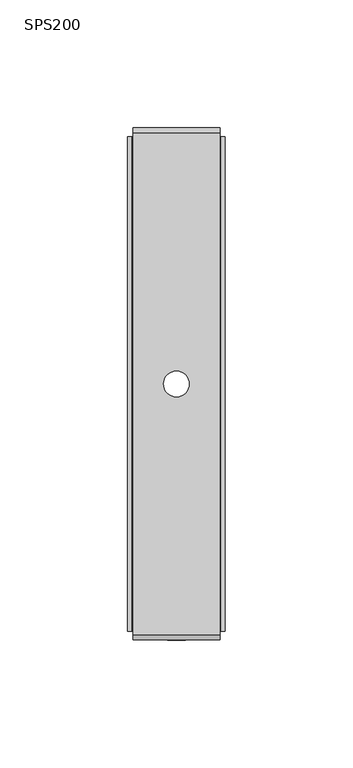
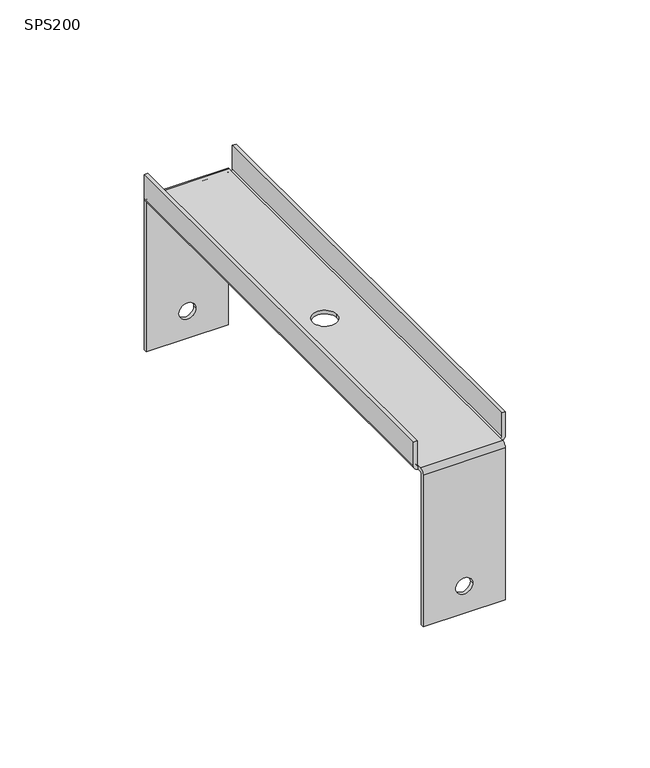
"""IFC4 building model written with IfcOpenShell, lengths in millimetres: proxy geometry, КМ Профиль_Скоба для подвеса на шпильке SPS : SPS200."""

from ifc_helpers import new_model, si_unit, frame, origin, place, context, project, spatial, polyline, circle_curve, source, transform, mapped, element, save
from ifc_brep_helpers import plane_surface, cylinder_surface, revolved_surface, advanced_brep


def sps200_42d4b807(model_context):
    return source(origin(), model_context, "Body", "AdvancedBrep", [
        advanced_brep(
        [(-17.0, 98.0, 0.0), (-17.0, 100.0, -2.0), (-17.0, 100.0, -68.5), (-17.0, 98.5, -68.5), (-17.0, 98.5, -2.0), (-17.0, 98.0, -1.5), (-17.0, 96.5, -1.5), (-17.0, 96.5, 0.0), (-17.0, -98.0, -1.5), (-17.0, -98.5, -2.0), (-17.0, -98.5, -68.5), (-17.0, -100.0, -68.5), (-17.0, -100.0, -2.0), (-17.0, -98.0, 0.0), (-17.0, -96.5, 0.0), (-17.0, -96.5, -1.5), (17.0, -98.0, 0.0), (17.0, -100.0, -2.0), (17.0, -100.0, -68.5), (17.0, -98.5, -68.5), (17.0, -98.5, -2.0), (17.0, -98.0, -1.5), (17.0, -96.5, -1.5), (17.0, -96.5, 0.0), (17.0, 98.0, -1.5), (17.0, 98.5, -2.0), (17.0, 98.5, -68.5), (17.0, 100.0, -68.5), (17.0, 100.0, -2.0), (17.0, 98.0, 0.0), (17.0, 96.5, 0.0), (17.0, 96.5, -1.5), (5.0, 0.0, 0.0), (0.0, -5.0, 0.0), (-5.0, 0.0, 0.0), (0.0, 5.0, 0.0), (-3.5, -98.5, -56.5), (3.5, -98.5, -56.5), (3.5, -100.0, -56.5), (-3.5, -100.0, -56.5), (5.0, 0.0, -1.5), (0.0, 5.0, -1.5), (-5.0, 0.0, -1.5), (0.0, -5.0, -1.5), (-3.5, 100.0, -56.5), (3.5, 100.0, -56.5), (3.5, 98.5, -56.5), (-3.5, 98.5, -56.5), (19.0, 96.5, 11.0), (19.0, 96.5, 0.5), (17.5, 96.5, 0.5), (17.5, 96.5, 11.0), (-19.0, 96.5, 0.5), (-19.0, 96.5, 11.0), (-17.5, 96.5, 11.0), (-17.5, 96.5, 0.5), (19.0, -96.5, 0.5), (19.0, -96.5, 11.0), (17.5, -96.5, 11.0), (17.5, -96.5, 0.5), (-17.5, -96.5, 0.5), (-17.5, -96.5, 11.0), (-19.0, -96.5, 11.0), (-19.0, -96.5, 0.5)],
        [
            (0, 1, circle_curve(frame((-17.0, 98.0, -2.0), z_axis=(-1.0, 0.0, 0.0), x_axis=(0.0, 1.0, 0.0)), 2.0)),
            (1, 2),
            (2, 3),
            (3, 4),
            (4, 5, circle_curve(frame((-17.0, 98.0, -2.0), z_axis=(1.0, 0.0, 0.0), x_axis=(0.0, 1.0, 0.0)), 0.5)),
            (5, 6),
            (6, 7),
            (7, 0),
            (8, 9, circle_curve(frame((-17.0, -98.0, -2.0), z_axis=(1.0, 0.0, 0.0), x_axis=(0.0, 1.0, 0.0)), 0.5)),
            (9, 10),
            (10, 11),
            (11, 12),
            (12, 13, circle_curve(frame((-17.0, -98.0, -2.0), z_axis=(-1.0, 0.0, 0.0), x_axis=(0.0, 1.0, 0.0)), 2.0)),
            (13, 14),
            (14, 15),
            (15, 8),
            (16, 17, circle_curve(frame((17.0, -98.0, -2.0), z_axis=(1.0, 0.0, 0.0), x_axis=(0.0, 1.0, 0.0)), 2.0)),
            (17, 18),
            (18, 19),
            (19, 20),
            (20, 21, circle_curve(frame((17.0, -98.0, -2.0), z_axis=(-1.0, 0.0, 0.0), x_axis=(0.0, 1.0, 0.0)), 0.5)),
            (21, 22),
            (22, 23),
            (23, 16),
            (24, 25, circle_curve(frame((17.0, 98.0, -2.0), z_axis=(-1.0, 0.0, 0.0), x_axis=(0.0, 1.0, 0.0)), 0.5)),
            (25, 26),
            (26, 27),
            (27, 28),
            (28, 29, circle_curve(frame((17.0, 98.0, -2.0), z_axis=(1.0, 0.0, 0.0), x_axis=(0.0, 1.0, 0.0)), 2.0)),
            (29, 30),
            (30, 31),
            (31, 24),
            (13, 16),
            (23, 30),
            (29, 0),
            (7, 14),
            (32, 33, circle_curve(frame((0.0, 0.0, 0.0), z_axis=(0.0, 0.0, -1.0), x_axis=(1.0, 0.0, 0.0)), 5.0)),
            (33, 34, circle_curve(frame((0.0, 0.0, 0.0), z_axis=(0.0, 0.0, -1.0), x_axis=(1.0, 0.0, 0.0)), 5.0)),
            (34, 35, circle_curve(frame((0.0, 0.0, 0.0), z_axis=(0.0, 0.0, -1.0), x_axis=(1.0, 0.0, 0.0)), 5.0)),
            (35, 32, circle_curve(frame((0.0, 0.0, 0.0), z_axis=(0.0, 0.0, -1.0), x_axis=(1.0, 0.0, 0.0)), 5.0)),
            (9, 20),
            (19, 10),
            (36, 37, circle_curve(frame((0.0, -98.5, -56.5), z_axis=(0.0, -1.0, 0.0), x_axis=(1.0, 0.0, 0.0)), 3.5)),
            (37, 36, circle_curve(frame((0.0, -98.5, -56.5), z_axis=(0.0, -1.0, 0.0), x_axis=(1.0, 0.0, 0.0)), 3.5)),
            (18, 11),
            (17, 12),
            (38, 39, circle_curve(frame((0.0, -100.0, -56.5), z_axis=(0.0, 1.0, 0.0), x_axis=(1.0, 0.0, 0.0)), 3.5)),
            (39, 38, circle_curve(frame((0.0, -100.0, -56.5), z_axis=(0.0, 1.0, 0.0), x_axis=(1.0, 0.0, 0.0)), 3.5)),
            (5, 24),
            (31, 22),
            (21, 8),
            (15, 6),
            (40, 41, circle_curve(frame((0.0, 0.0, -1.5), z_axis=(0.0, 0.0, 1.0), x_axis=(1.0, 0.0, 0.0)), 5.0)),
            (41, 42, circle_curve(frame((0.0, 0.0, -1.5), z_axis=(0.0, 0.0, 1.0), x_axis=(1.0, 0.0, 0.0)), 5.0)),
            (42, 43, circle_curve(frame((0.0, 0.0, -1.5), z_axis=(0.0, 0.0, 1.0), x_axis=(1.0, 0.0, 0.0)), 5.0)),
            (43, 40, circle_curve(frame((0.0, 0.0, -1.5), z_axis=(0.0, 0.0, 1.0), x_axis=(1.0, 0.0, 0.0)), 5.0)),
            (1, 28),
            (27, 2),
            (44, 45, circle_curve(frame((0.0, 100.0, -56.5), z_axis=(0.0, -1.0, 0.0), x_axis=(1.0, 0.0, 0.0)), 3.5)),
            (45, 44, circle_curve(frame((0.0, 100.0, -56.5), z_axis=(0.0, -1.0, 0.0), x_axis=(1.0, 0.0, 0.0)), 3.5)),
            (26, 3),
            (25, 4),
            (46, 47, circle_curve(frame((0.0, 98.5, -56.5), z_axis=(0.0, 1.0, 0.0), x_axis=(1.0, 0.0, 0.0)), 3.5)),
            (47, 46, circle_curve(frame((0.0, 98.5, -56.5), z_axis=(0.0, 1.0, 0.0), x_axis=(1.0, 0.0, 0.0)), 3.5)),
            (32, 40),
            (42, 34),
            (48, 49),
            (49, 31, circle_curve(frame((17.0, 96.5, 0.5), z_axis=(0.0, 1.0, 0.0), x_axis=(1.0, 0.0, 0.0)), 2.0)),
            (30, 50, circle_curve(frame((17.0, 96.5, 0.5), z_axis=(0.0, -1.0, 0.0), x_axis=(1.0, 0.0, 0.0)), 0.5)),
            (50, 51),
            (51, 48),
            (6, 52, circle_curve(frame((-17.0, 96.5, 0.5), z_axis=(0.0, 1.0, 0.0), x_axis=(1.0, 0.0, 0.0)), 2.0)),
            (52, 53),
            (53, 54),
            (54, 55),
            (55, 7, circle_curve(frame((-17.0, 96.5, 0.5), z_axis=(0.0, -1.0, 0.0), x_axis=(1.0, 0.0, 0.0)), 0.5)),
            (56, 57),
            (57, 58),
            (58, 59),
            (59, 23, circle_curve(frame((17.0, -96.5, 0.5), z_axis=(0.0, 1.0, 0.0), x_axis=(1.0, 0.0, 0.0)), 0.5)),
            (22, 56, circle_curve(frame((17.0, -96.5, 0.5), z_axis=(0.0, -1.0, 0.0), x_axis=(1.0, 0.0, 0.0)), 2.0)),
            (14, 60, circle_curve(frame((-17.0, -96.5, 0.5), z_axis=(0.0, 1.0, 0.0), x_axis=(1.0, 0.0, 0.0)), 0.5)),
            (60, 61),
            (61, 62),
            (62, 63),
            (63, 15, circle_curve(frame((-17.0, -96.5, 0.5), z_axis=(0.0, -1.0, 0.0), x_axis=(1.0, 0.0, 0.0)), 2.0)),
            (48, 57),
            (56, 49),
            (63, 52),
            (62, 53),
            (61, 54),
            (60, 55),
            (59, 50),
            (58, 51),
            (36, 39),
            (38, 37),
            (44, 47),
            (46, 45),
        ],
        [
            plane_surface(frame((-17.0, 0.0, 0.0), z_axis=(-1.0, 0.0, 0.0), x_axis=(0.0, 0.0, 1.0))),
            plane_surface(frame((17.0, 0.0, 0.0), z_axis=(1.0, 0.0, 0.0), x_axis=(0.0, 0.0, 1.0))),
            plane_surface(frame((-17.0, -98.0, 0.0), z_axis=(0.0, 0.0, 1.0), x_axis=(1.0, 0.0, 0.0))),
            plane_surface(frame((-17.0, -98.5, -2.0), z_axis=(0.0, 1.0, 0.0), x_axis=(1.0, 0.0, 0.0))),
            plane_surface(frame((-17.0, -98.5, -68.5), z_axis=(0.0, 0.0, -1.0), x_axis=(1.0, 0.0, 0.0))),
            plane_surface(frame((-17.0, -100.0, -68.5), z_axis=(0.0, -1.0, 0.0), x_axis=(1.0, 0.0, 0.0))),
            plane_surface(frame((-17.0, 98.0, -1.5), z_axis=(0.0, 0.0, -1.0), x_axis=(1.0, 0.0, 0.0))),
            plane_surface(frame((-17.0, 100.0, -2.0), z_axis=(0.0, 1.0, 0.0), x_axis=(1.0, 0.0, 0.0))),
            plane_surface(frame((-17.0, 100.0, -68.5), z_axis=(0.0, 0.0, -1.0), x_axis=(1.0, 0.0, 0.0))),
            plane_surface(frame((-17.0, 98.5, -68.5), z_axis=(0.0, -1.0, 0.0), x_axis=(1.0, 0.0, 0.0))),
            revolved_surface(polyline([(17.0, 98.5, -2.0), (-17.0, 98.5, -2.0)]), (-17.0, 98.0, -2.0), (1.0, 0.0, 0.0)),
            revolved_surface(polyline([(17.0, -97.5, -2.0), (-17.0, -97.5, -2.0)]), (-17.0, -98.0, -2.0), (1.0, 0.0, 0.0)),
            cylinder_surface(frame((-17.0, -98.0, -2.0), z_axis=(-1.0, 0.0, 0.0), x_axis=(0.0, 1.0, 0.0)), 2.0),
            cylinder_surface(frame((-17.0, 98.0, -2.0), z_axis=(-1.0, 0.0, 0.0), x_axis=(0.0, 1.0, 0.0)), 2.0),
            revolved_surface(polyline([(5.0, 0.0, 0.0), (5.0, 0.0, -1.5)]), (0.0, 0.0, -1.5), (0.0, 0.0, 1.0)),
            plane_surface(frame((0.0, 96.5, 0.0), z_axis=(0.0, 1.0, 0.0), x_axis=(0.0, 0.0, 1.0))),
            plane_surface(frame((0.0, -96.5, 0.0), z_axis=(0.0, -1.0, 0.0), x_axis=(0.0, 0.0, 1.0))),
            plane_surface(frame((19.0, 96.5, 11.0), z_axis=(1.0, 0.0, 0.0), x_axis=(0.0, -1.0, 0.0))),
            cylinder_surface(frame((17.0, 96.5, 0.5), z_axis=(0.0, 1.0, 0.0), x_axis=(1.0, 0.0, 0.0)), 2.0),
            cylinder_surface(frame((-17.0, 96.5, 0.5), z_axis=(0.0, 1.0, 0.0), x_axis=(1.0, 0.0, 0.0)), 2.0),
            plane_surface(frame((-19.0, 96.5, 0.5), z_axis=(-1.0, 0.0, 0.0), x_axis=(0.0, -1.0, 0.0))),
            plane_surface(frame((-19.0, 96.5, 11.0), z_axis=(0.0, 0.0, 1.0), x_axis=(0.0, -1.0, 0.0))),
            plane_surface(frame((-17.5, 96.5, 11.0), z_axis=(1.0, 0.0, 0.0), x_axis=(0.0, -1.0, 0.0))),
            revolved_surface(polyline([(-16.5, -96.5, 0.5), (-16.5, 96.5, 0.5)]), (-17.0, 96.5, 0.5), (0.0, -1.0, 0.0)),
            revolved_surface(polyline([(17.5, -96.5, 0.5), (17.5, 96.5, 0.5)]), (17.0, 96.5, 0.5), (0.0, -1.0, 0.0)),
            plane_surface(frame((17.5, 96.5, 0.5), z_axis=(-1.0, 0.0, 0.0), x_axis=(0.0, -1.0, 0.0))),
            plane_surface(frame((17.5, 96.5, 11.0), z_axis=(0.0, 0.0, 1.0), x_axis=(0.0, -1.0, 0.0))),
            revolved_surface(polyline([(3.5, -100.0, -56.5), (3.5, -98.5, -56.5)]), (0.0, 100.0, -56.5), (0.0, -1.0, 0.0)),
            revolved_surface(polyline([(3.5, 98.5, -56.5), (3.5, 100.0, -56.5)]), (0.0, 100.0, -56.5), (0.0, -1.0, 0.0)),
        ],
        [
            (0, [[1, 2, 3, 4, 5, 6, 7, 8]]),
            (0, [[9, 10, 11, 12, 13, 14, 15, 16]]),
            (1, [[17, 18, 19, 20, 21, 22, 23, 24]]),
            (1, [[25, 26, 27, 28, 29, 30, 31, 32]]),
            (2, [[33, -24, 34, -30, 35, -8, 36, -14], [37, 38, 39, 40]]),
            (3, [[-10, 41, -20, 42], [43, 44]]),
            (4, [[-11, -42, -19, 45]]),
            (5, [[-12, -45, -18, 46], [47, 48]]),
            (6, [[49, -32, 50, -22, 51, -16, 52, -6], [53, 54, 55, 56]]),
            (7, [[-2, 57, -28, 58], [59, 60]]),
            (8, [[-3, -58, -27, 61]]),
            (9, [[-4, -61, -26, 62], [63, 64]]),
            (10, [[-5, -62, -25, -49]]),
            (11, [[-9, -51, -21, -41]]),
            (12, [[-13, -46, -17, -33]]),
            (13, [[-1, -35, -29, -57]]),
            (14, [[65, -56, -55, 66, -38, -37]]),
            (14, [[-65, -40, -39, -66, -54, -53]]),
            (15, [[67, 68, -31, 69, 70, 71]]),
            (15, [[72, 73, 74, 75, 76, -7]]),
            (16, [[77, 78, 79, 80, -23, 81]]),
            (16, [[82, 83, 84, 85, 86, -15]]),
            (17, [[-67, 87, -77, 88]]),
            (18, [[-68, -88, -81, -50]]),
            (19, [[-72, -52, -86, 89]]),
            (20, [[-73, -89, -85, 90]]),
            (21, [[-74, -90, -84, 91]]),
            (22, [[-75, -91, -83, 92]]),
            (23, [[-76, -92, -82, -36]]),
            (24, [[-69, -34, -80, 93]]),
            (25, [[-70, -93, -79, 94]]),
            (26, [[-71, -94, -78, -87]]),
            (27, [[-43, 95, -47, 96]]),
            (28, [[-59, 97, -63, 98]]),
            (27, [[-44, -96, -48, -95]]),
            (28, [[-60, -98, -64, -97]]),
        ],
    ),
    ])


if __name__ == "__main__":
    model = new_model("IFC4")
    model_context = context("Model", 3, world=origin())
    ifc_project = project(units=[si_unit("LENGTHUNIT", "METRE", prefix="MILLI")], contexts=[model_context])
    site = spatial("IfcSite", under=ifc_project)
    building = spatial("IfcBuilding", under=site)
    placement = place(None, origin())
    sps200_shape = sps200_42d4b807(model_context)
    element("IfcBuildingElementProxy", 1, Name="КМ Профиль_Скоба для подвеса на шпильке SPS : SPS200", ObjectType="КМ Профиль_Скоба для подвеса на шпильке SPS : SPS200", at=placement, inside=building, context=model_context, shape_type="MappedRepresentation", body=[
        mapped(sps200_shape, transform((0.0, 0.0, 0.0), x_axis=(1.0, 0.0, 0.0), y_axis=(0.0, 1.0, 0.0), z_axis=(0.0, 0.0, 1.0))),
    ])
    save(model, "model.ifc")
